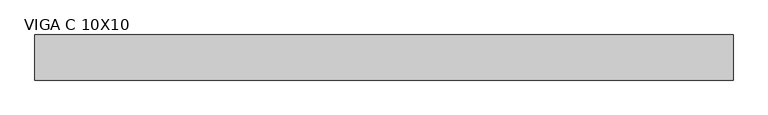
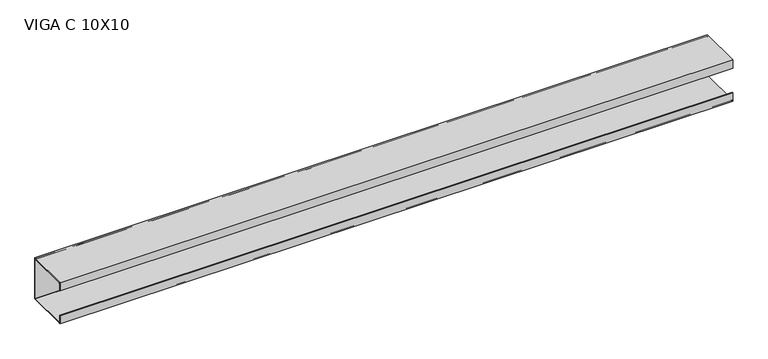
"""IFC4 building model written with IfcOpenShell, lengths in millimetres: beam geometry, VIGA PERFIL C AÇO : VIGA C 10X10."""

from ifc_helpers import new_model, si_unit, point, frame, frame_2d, origin, place, context, project, spatial, polyline, circle_curve, trimmed, segment, composite_curve, outline, extrude, source, transform, mapped, element, save


def viga_c_10x10_0d0f2ad4(model_context):
    return source(origin(), model_context, "Body", "SweptSolid", [
        extrude(outline(polyline([(9.2, -50.0), (-90.8, -50.0), (-90.8, -30.0), (-88.9, -30.0), (-88.9, -48.1), (7.3, -48.1), (7.3, 48.1), (-88.9, 48.1), (-88.9, 30.0), (-90.8, 30.0), (-90.8, 50.0), (9.2, 50.0), (9.2, -50.0)])), frame((-749.5, 0.0, 0.0), z_axis=(1.0, 0.0, 0.0), x_axis=(0.0, 1.0, 0.0)), (0.0, 0.0, 1.0), 1547.0),
        extrude(outline(composite_curve([segment(trimmed(circle_curve(frame_2d((5.4, -46.2)), 3.8), [point((9.2, -46.2))], [point((5.4, -50.0))], False, "CARTESIAN"), True, "CONTINUOUS"), segment(polyline([(5.4, -50.0), (-87.0, -50.0)]), True, "CONTINUOUS"), segment(trimmed(circle_curve(frame_2d((-87.0, -46.2)), 3.8), [point((-87.0, -50.0))], [point((-90.8, -46.2))], False, "CARTESIAN"), True, "CONTINUOUS"), segment(polyline([(-90.8, -46.2), (-90.8, -30.0), (-88.9, -30.0), (-88.9, -46.2)]), True, "CONTINUOUS"), segment(trimmed(circle_curve(frame_2d((-87.0, -46.2)), 1.9), [point((-88.9, -46.2))], [point((-87.0, -48.1))], True, "CARTESIAN"), True, "CONTINUOUS"), segment(polyline([(-87.0, -48.1), (5.4, -48.1)]), True, "CONTINUOUS"), segment(trimmed(circle_curve(frame_2d((5.4, -46.2)), 1.9), [point((5.4, -48.1))], [point((7.3, -46.2))], True, "CARTESIAN"), True, "CONTINUOUS"), segment(polyline([(7.3, -46.2), (7.3, 46.2)]), True, "CONTINUOUS"), segment(trimmed(circle_curve(frame_2d((5.4, 46.2)), 1.9), [point((7.3, 46.2))], [point((5.4, 48.1))], True, "CARTESIAN"), True, "CONTINUOUS"), segment(polyline([(5.4, 48.1), (-87.0, 48.1)]), True, "CONTINUOUS"), segment(trimmed(circle_curve(frame_2d((-87.0, 46.2)), 1.9), [point((-87.0, 48.1))], [point((-88.9, 46.2))], True, "CARTESIAN"), True, "CONTINUOUS"), segment(polyline([(-88.9, 46.2), (-88.9, 30.0), (-90.8, 30.0), (-90.8, 46.2)]), True, "CONTINUOUS"), segment(trimmed(circle_curve(frame_2d((-87.0, 46.2)), 3.8), [point((-90.8, 46.2))], [point((-87.0, 50.0))], False, "CARTESIAN"), True, "CONTINUOUS"), segment(polyline([(-87.0, 50.0), (5.4, 50.0)]), True, "CONTINUOUS"), segment(trimmed(circle_curve(frame_2d((5.4, 46.2)), 3.8), [point((5.4, 50.0))], [point((9.2, 46.2))], False, "CARTESIAN"), True, "CONTINUOUS"), segment(polyline([(9.2, 46.2), (9.2, -46.2)]), True, "CONTINUOUS")], self_intersect=False)), frame((-749.5, 0.0, 0.0), z_axis=(1.0, 0.0, 0.0), x_axis=(0.0, 1.0, 0.0)), (0.0, 0.0, 1.0), 1547.0),
    ])


if __name__ == "__main__":
    model = new_model("IFC4")
    model_context = context("Model", 3, world=origin())
    ifc_project = project(units=[si_unit("LENGTHUNIT", "METRE", prefix="MILLI")], contexts=[model_context])
    site = spatial("IfcSite", under=ifc_project)
    building = spatial("IfcBuilding", under=site)
    placement = place(None, origin())
    viga_c_10x10_shape = viga_c_10x10_0d0f2ad4(model_context)
    element("IfcBeam", 1, ObjectType="VIGA PERFIL C AÇO : VIGA C 10X10", at=placement, inside=building, context=model_context, shape_type="MappedRepresentation", body=[
        mapped(viga_c_10x10_shape, transform((0.0, 0.0, 0.0), x_axis=(1.0, 0.0, 0.0), y_axis=(0.0, 1.0, 0.0), z_axis=(0.0, 0.0, 1.0))),
    ])
    save(model, "model.ifc")
